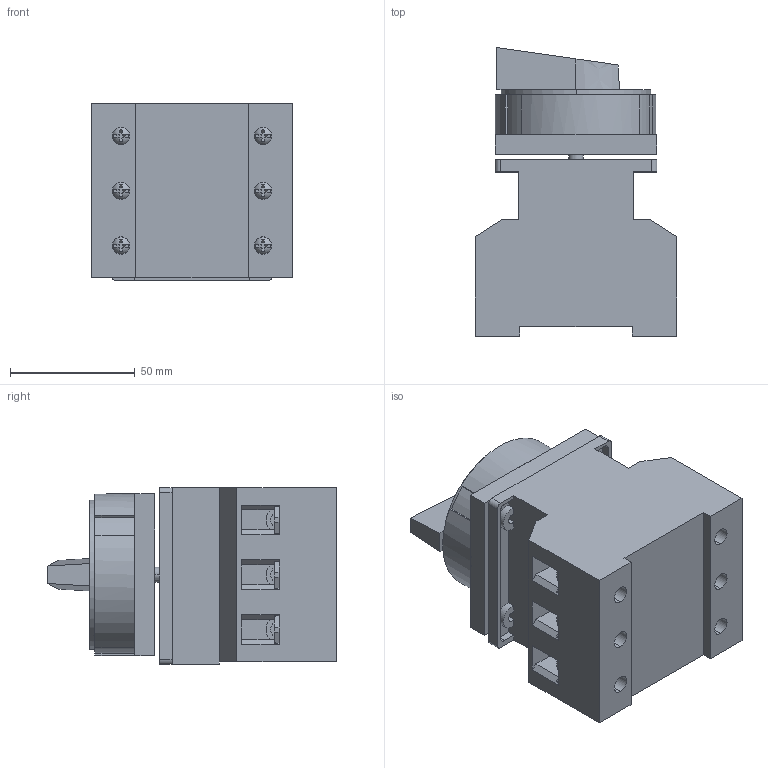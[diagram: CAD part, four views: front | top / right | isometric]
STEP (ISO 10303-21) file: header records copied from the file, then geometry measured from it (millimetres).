
FILE_DESCRIPTION((''),'2;1');
FILE_NAME('NH40-100-3-3_ASM','2021-06-16T',('wangpeng'),(''),'PRO/ENGINEER BY PARAMETRIC TECHNOLOGY CORPORATION, 2009460','PRO/ENGINEER BY PARAMETRIC TECHNOLOGY CORPORATION, 2009460','');
FILE_SCHEMA(('AUTOMOTIVE_DESIGN { 1 0 10303 214 1 1 1 1 }'));
Length unit declared in the file: millimetre
Products named in the file (5): ZJ001; CT63; DP63; LDM4; NH40-100-3-3_ASM
Assembly tree (16 placements, depth 2):
  NH40-100-3-3_ASM
    ZJ001
    CT63  x3
    DP63  x6
    LDM4  x6
Bounding box: 81 x 116 x 71 mm (x, y, z)
Volume: 381729.3 mm3; surface area: 89826 mm2
Topology: 16 solids, 16 shells, 490 faces, 1296 edges, 854 vertices
Faces by surface type: plane 371, cylinder 101, sphere 12, bspline 6
Entity records: 9687 total; most frequent: CARTESIAN_POINT 1807, ORIENTED_EDGE 1568, DIRECTION 1541, EDGE_CURVE 784, VECTOR 627, LINE 627, VERTEX_POINT 516, AXIS2_PLACEMENT_3D 457
